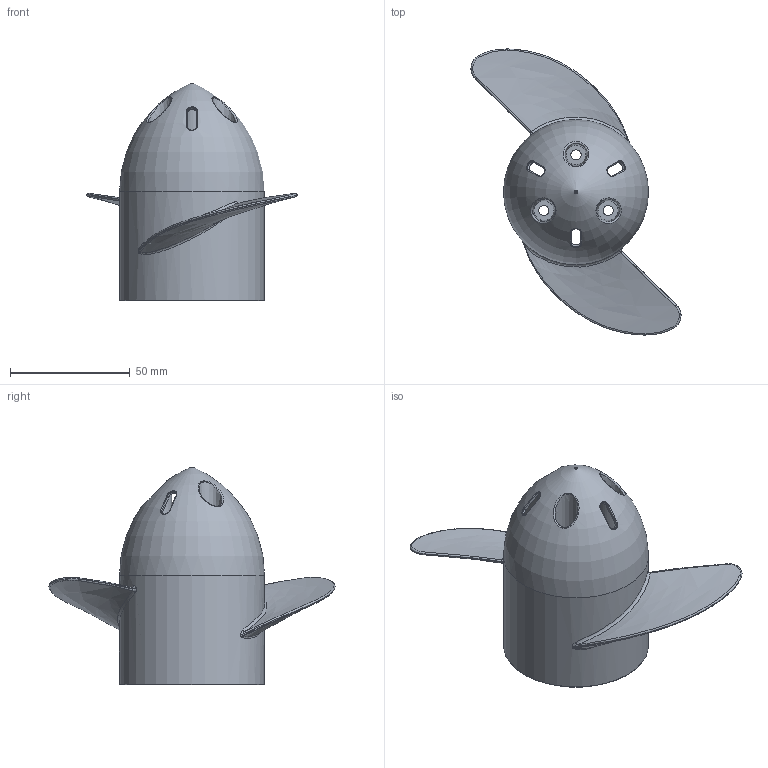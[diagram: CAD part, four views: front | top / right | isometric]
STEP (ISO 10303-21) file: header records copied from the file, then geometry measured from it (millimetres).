
FILE_DESCRIPTION (( 'STEP AP214' ), '1' );
FILE_NAME ('BR-107331-200_RevA.STEP', '2026-07-08T20:53:24', ( '' ), ( '' ), 'SwSTEP 2.0', 'SolidWorks 2024', '' );
FILE_SCHEMA (( 'AUTOMOTIVE_DESIGN' ));
Length unit declared in the file: millimetre
Products named in the file (1): BR-107331-200_RevA
Bounding box: 87.66 x 119.36 x 90.72 mm (x, y, z)
Volume: 42372.4 mm3; surface area: 45727.9 mm2
Topology: 1 solids, 1 shells, 275 faces, 689 edges, 413 vertices
Faces by surface type: bspline 95, cylinder 88, plane 45, torus 26, cone 15, sphere 6
Full cylindrical faces by diameter (mm): 4.24 x3, 60.5 x1
Entity records: 17724 total; most frequent: CARTESIAN_POINT 12203, ORIENTED_EDGE 1280, DIRECTION 924, EDGE_CURVE 640, AXIS2_PLACEMENT_3D 393, VERTEX_POINT 388, EDGE_LOOP 308, B_SPLINE_CURVE_WITH_KNOTS 290
